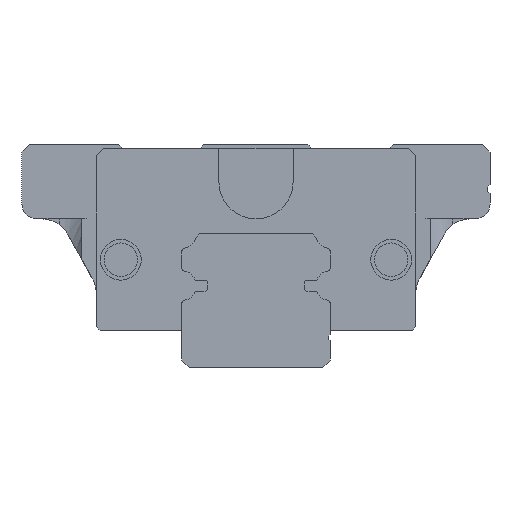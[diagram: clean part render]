
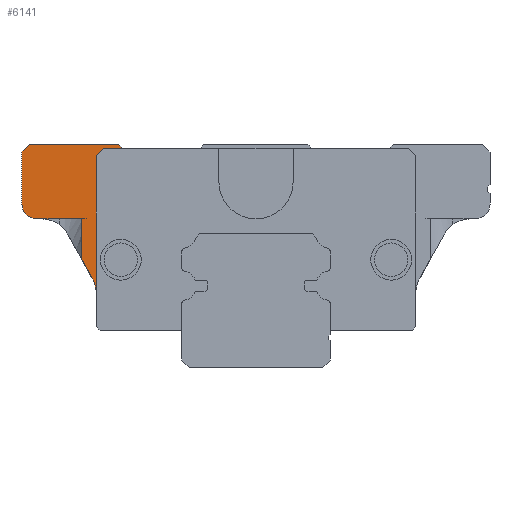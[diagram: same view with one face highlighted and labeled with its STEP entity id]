
A CAD part, left-side view. The second image highlights one B-rep face of the part: STEP entity #6141.
In plain terms, the highlighted planar face has unit normal (-1, 0, 0).
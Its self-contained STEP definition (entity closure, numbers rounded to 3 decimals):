
#4176=CARTESIAN_POINT('',(158.454,23.5,14.6));
#4177=VERTEX_POINT('',#4176);
#4186=CARTESIAN_POINT('',(158.454,23.5,20.0));
#4187=VERTEX_POINT('',#4186);
#4188=CARTESIAN_POINT('',(158.454,23.5,20.0));
#4189=DIRECTION('',(0.0,0.0,-1.0));
#4190=VECTOR('',#4189,5.4);
#4191=LINE('',#4188,#4190);
#4192=EDGE_CURVE('',#4187,#4177,#4191,.T.);
#4300=CARTESIAN_POINT('',(158.454,21.5,9.964));
#4301=VERTEX_POINT('',#4300);
#4308=CARTESIAN_POINT('',(158.454,22.003,11.906));
#4309=VERTEX_POINT('',#4308);
#4310=CARTESIAN_POINT('',(158.454,25.5,9.964));
#4311=DIRECTION('',(-1.,0.0,0.0));
#4312=DIRECTION('',(0.0,0.874,-0.486));
#4313=AXIS2_PLACEMENT_3D('',#4310,#4311,#4312);
#4314=CIRCLE('',#4313,4.0);
#4315=EDGE_CURVE('',#4301,#4309,#4314,.T.);
#4753=CARTESIAN_POINT('',(158.454,18.0,29.5));
#4754=VERTEX_POINT('',#4753);
#4761=CARTESIAN_POINT('',(158.454,20.5,29.5));
#4762=VERTEX_POINT('',#4761);
#4763=CARTESIAN_POINT('',(158.454,18.0,29.5));
#4764=DIRECTION('',(0.0,1.0,0.0));
#4765=VECTOR('',#4764,2.5);
#4766=LINE('',#4763,#4765);
#4767=EDGE_CURVE('',#4754,#4762,#4766,.T.);
#6064=CARTESIAN_POINT('',(158.454,24.528,22.426));
#6065=DIRECTION('',(1.0,0.0,0.0));
#6066=DIRECTION('',(0.0,0.0,-1.0));
#6067=AXIS2_PLACEMENT_3D('',#6064,#6065,#6066);
#6068=PLANE('',#6067);
#6069=ORIENTED_EDGE('',*,*,#4192,.T.);
#6070=CARTESIAN_POINT('',(158.454,22.003,11.906));
#6071=DIRECTION('',(0.0,0.486,0.874));
#6072=VECTOR('',#6071,3.082);
#6073=LINE('',#6070,#6072);
#6074=EDGE_CURVE('',#4309,#4177,#6073,.T.);
#6075=ORIENTED_EDGE('',*,*,#6074,.F.);
#6076=ORIENTED_EDGE('',*,*,#4315,.F.);
#6077=CARTESIAN_POINT('',(158.454,21.5,28.5));
#6078=VERTEX_POINT('',#6077);
#6079=CARTESIAN_POINT('',(158.454,21.5,28.5));
#6080=DIRECTION('',(0.0,0.0,-1.0));
#6081=VECTOR('',#6080,18.536);
#6082=LINE('',#6079,#6081);
#6083=EDGE_CURVE('',#6078,#4301,#6082,.T.);
#6084=ORIENTED_EDGE('',*,*,#6083,.F.);
#6085=CARTESIAN_POINT('',(158.454,20.5,29.5));
#6086=DIRECTION('',(0.0,0.707,-0.707));
#6087=VECTOR('',#6086,1.414);
#6088=LINE('',#6085,#6087);
#6089=EDGE_CURVE('',#4762,#6078,#6088,.T.);
#6090=ORIENTED_EDGE('',*,*,#6089,.F.);
#6091=ORIENTED_EDGE('',*,*,#4767,.F.);
#6092=CARTESIAN_POINT('',(158.454,18.5,30.0));
#6093=VERTEX_POINT('',#6092);
#6094=CARTESIAN_POINT('',(158.454,18.5,30.0));
#6095=DIRECTION('',(0.0,-0.707,-0.707));
#6096=VECTOR('',#6095,0.707);
#6097=LINE('',#6094,#6096);
#6098=EDGE_CURVE('',#6093,#4754,#6097,.T.);
#6099=ORIENTED_EDGE('',*,*,#6098,.F.);
#6100=CARTESIAN_POINT('',(158.454,30.5,30.0));
#6101=VERTEX_POINT('',#6100);
#6102=CARTESIAN_POINT('',(158.454,30.5,30.0));
#6103=DIRECTION('',(0.0,-1.0,0.0));
#6104=VECTOR('',#6103,12.);
#6105=LINE('',#6102,#6104);
#6106=EDGE_CURVE('',#6101,#6093,#6105,.T.);
#6107=ORIENTED_EDGE('',*,*,#6106,.F.);
#6108=CARTESIAN_POINT('',(158.454,31.5,29.));
#6109=VERTEX_POINT('',#6108);
#6110=CARTESIAN_POINT('',(158.454,31.5,29.));
#6111=DIRECTION('',(0.0,-0.707,0.707));
#6112=VECTOR('',#6111,1.414);
#6113=LINE('',#6110,#6112);
#6114=EDGE_CURVE('',#6109,#6101,#6113,.T.);
#6115=ORIENTED_EDGE('',*,*,#6114,.F.);
#6116=CARTESIAN_POINT('',(158.454,31.5,22.0));
#6117=VERTEX_POINT('',#6116);
#6118=CARTESIAN_POINT('',(158.454,31.5,22.0));
#6119=DIRECTION('',(0.0,0.0,1.0));
#6120=VECTOR('',#6119,7.);
#6121=LINE('',#6118,#6120);
#6122=EDGE_CURVE('',#6117,#6109,#6121,.T.);
#6123=ORIENTED_EDGE('',*,*,#6122,.F.);
#6124=CARTESIAN_POINT('',(158.454,29.5,20.0));
#6125=VERTEX_POINT('',#6124);
#6126=CARTESIAN_POINT('',(158.454,29.5,22.0));
#6127=DIRECTION('',(1.0,0.0,0.0));
#6128=DIRECTION('',(0.0,0.,-1.0));
#6129=AXIS2_PLACEMENT_3D('',#6126,#6127,#6128);
#6130=CIRCLE('',#6129,2.0);
#6131=EDGE_CURVE('',#6125,#6117,#6130,.T.);
#6132=ORIENTED_EDGE('',*,*,#6131,.F.);
#6133=CARTESIAN_POINT('',(158.454,23.5,20.0));
#6134=DIRECTION('',(0.0,1.0,0.0));
#6135=VECTOR('',#6134,6.);
#6136=LINE('',#6133,#6135);
#6137=EDGE_CURVE('',#4187,#6125,#6136,.T.);
#6138=ORIENTED_EDGE('',*,*,#6137,.F.);
#6139=EDGE_LOOP('',(#6069,#6075,#6076,#6084,#6090,#6091,#6099,#6107,#6115,#6123,#6132,#6138));
#6140=FACE_OUTER_BOUND('',#6139,.T.);
#6141=ADVANCED_FACE('',(#6140),#6068,.F.);
